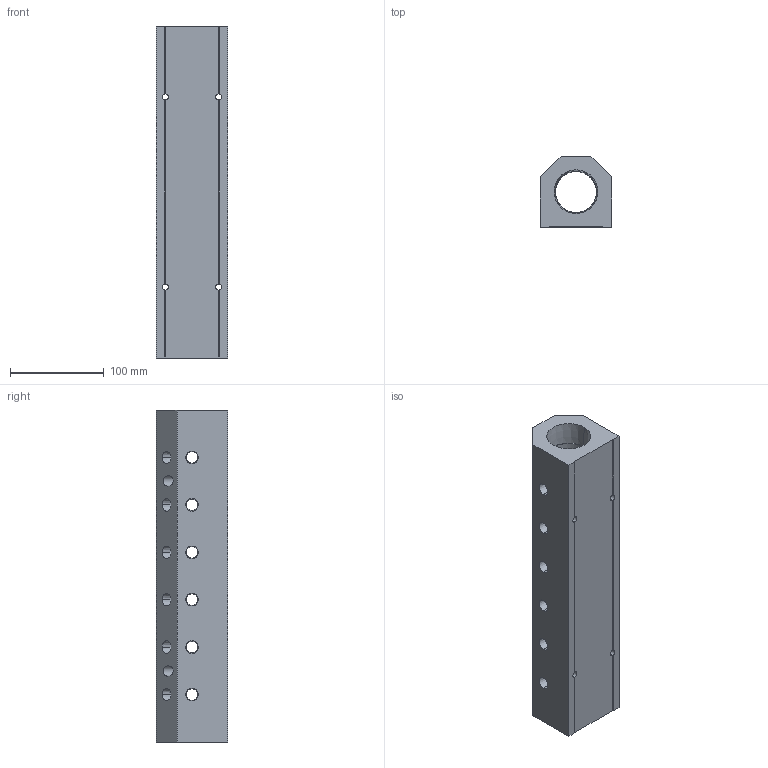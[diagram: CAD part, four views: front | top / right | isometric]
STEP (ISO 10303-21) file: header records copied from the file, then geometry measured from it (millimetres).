
FILE_DESCRIPTION (( 'STEP AP214' ), '1' );
FILE_NAME ('ALM6ABCDE-N4N24-355R.step', '2022-02-07T07:39:46', ( '' ), ( '' ), 'SwSTEP 2.0', 'SolidWorks 2020', '' );
FILE_SCHEMA (( 'AUTOMOTIVE_DESIGN' ));
Length unit declared in the file: millimetre
Products named in the file (1): ALM6ABCDE-N4N24-355R
Bounding box: 76.2 x 76.2 x 355 mm (x, y, z)
Volume: 1255811 mm3; surface area: 173508.3 mm2
Topology: 1 solids, 1 shells, 405 faces, 1102 edges, 724 vertices
Faces by surface type: plane 247, bspline 76, cone 64, cylinder 18
Entity records: 23953 total; most frequent: CARTESIAN_POINT 10250, ORIENTED_EDGE 2204, DIRECTION 1630, EDGE_CURVE 1102, LINE 778, VECTOR 778, VERTEX_POINT 724, EDGE_LOOP 500
